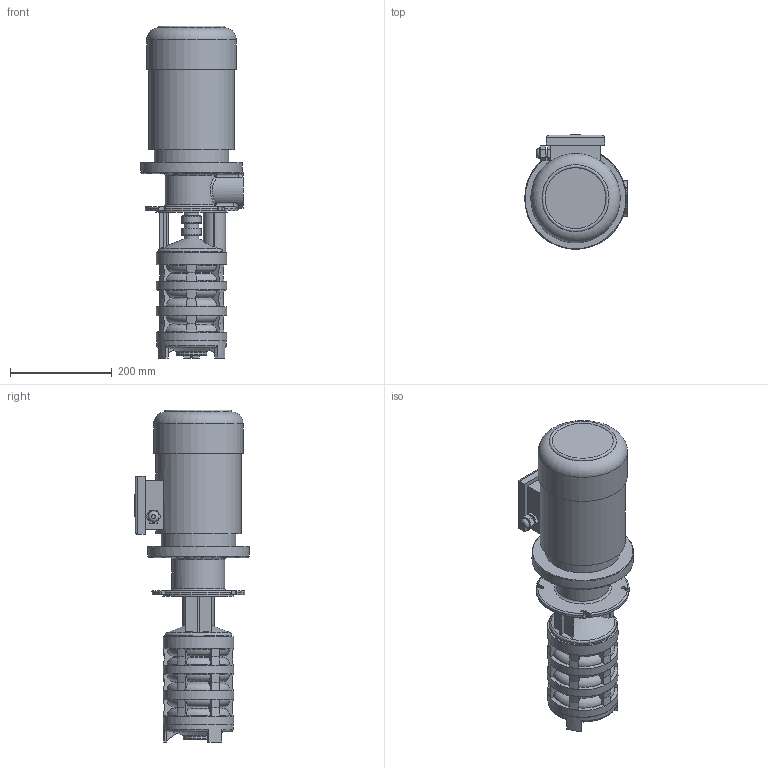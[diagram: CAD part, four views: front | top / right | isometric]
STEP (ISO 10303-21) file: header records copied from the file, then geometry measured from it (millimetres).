
FILE_DESCRIPTION(/* description */ ('Unknown'),/* implementation_level */ '2;1');
FILE_NAME(/* name */ 'gp4-290',/* time_stamp */ '2025-06-04T17:09:07+03:00',/* author */ ('Unknown'),/* organization */ ('Unknown'),/* preprocessor_version */ 'ST-DEVELOPER v16.7',/* originating_system */ 'DEX',/* authorisation */ $);
FILE_SCHEMA (('AUTOMOTIVE_DESIGN {1 0 10303 214 3 1 1}'));
Length unit declared in the file: millimetre
Products named in the file (1): gp4-290
Bounding box: 202 x 225 x 653.33 mm (x, y, z)
Volume: 11100634.2 mm3; surface area: 497318 mm2
Topology: 1 solids, 1 shells, 430 faces, 1128 edges, 731 vertices
Faces by surface type: plane 146, cylinder 86, bspline 85, cone 61, torus 52
Full cylindrical faces by diameter (mm): 17 x1, 21.5 x1, 29 x3, 33 x2, 35 x2, 39 x2, 40.5 x2, 45 x1, 47 x1, 60 x1, 137 x1, 139 x4, 140 x1, 168.001 x1, 176 x1, 200 x1
Entity records: 15942 total; most frequent: CARTESIAN_POINT 5940, ORIENTED_EDGE 2120, DIRECTION 1929, EDGE_CURVE 1060, AXIS2_PLACEMENT_3D 730, VERTEX_POINT 718, EDGE_LOOP 520, FACE_BOUND 520
